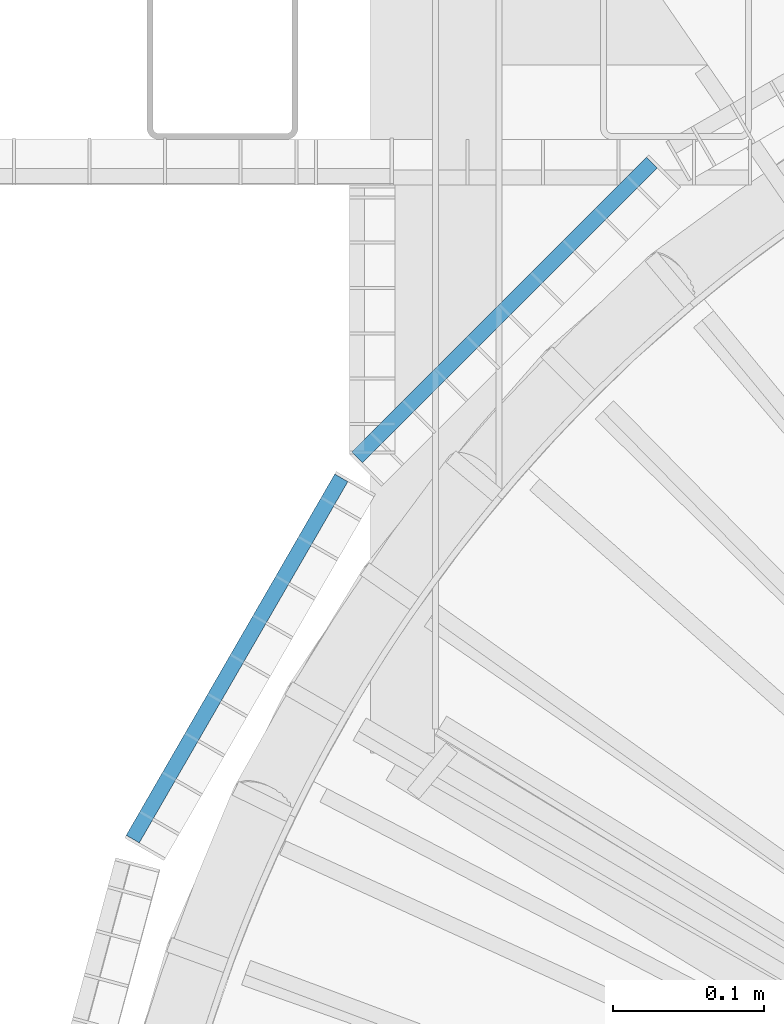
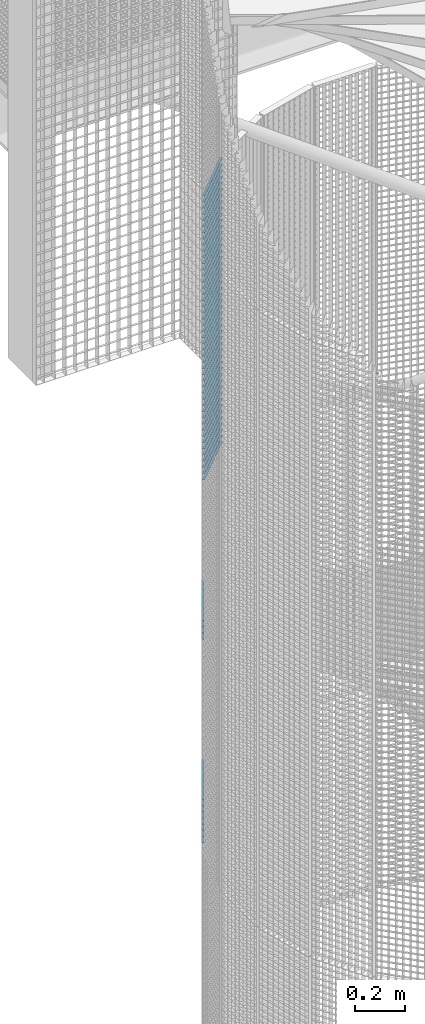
# One storey, part 209 of 1183: 59 beams, 2 elements without a shape of their own.
"""IFC2X3 building model written with IfcOpenShell, lengths in millimetres."""

from ifc_helpers import new_model, si_unit, frame, origin_with_axes, origin_2d_with_axis, place, context, subcontext, project, spatial, rectangle, extrude, material, type_object, element, aggregate, save


model = new_model("IFC2X3")

# Units and contexts
model_context = context("Model", 3, precision=1e-05, world=origin_with_axes())
body_context = subcontext(model_context, "Body", "Model", "MODEL_VIEW")
ifc_project = project(units=[si_unit("LENGTHUNIT", "METRE", prefix="MILLI"), si_unit("AREAUNIT", "SQUARE_METRE"), si_unit("VOLUMEUNIT", "CUBIC_METRE"), si_unit("MASSUNIT", "GRAM", prefix="KILO"), si_unit("TIMEUNIT", "SECOND"), si_unit("PLANEANGLEUNIT", "RADIAN"), si_unit("SOLIDANGLEUNIT", "STERADIAN"), si_unit("THERMODYNAMICTEMPERATUREUNIT", "DEGREE_CELSIUS"), si_unit("LUMINOUSINTENSITYUNIT", "LUMEN")], contexts=[model_context])

# Site, building, storey
site_placement = place(None, origin_with_axes())
site = spatial("IfcSite", under=ifc_project, at=site_placement, Name="Undefined", CompositionType="ELEMENT")
building_placement = place(site_placement, origin_with_axes())
building = spatial("IfcBuilding", under=site, at=building_placement, Name="Undefined", CompositionType="ELEMENT")
storey_placement = place(building_placement, origin_with_axes())
storey = spatial("IfcBuildingStorey", under=building, at=storey_placement, Name="Undefined", CompositionType="ELEMENT", Elevation=0.0)

# Assembly, beams
assembly_1_placement = place(storey_placement, origin_with_axes())
assembly_1 = element("IfcElementAssembly", 1, at=assembly_1_placement, inside=storey, Name="BORDURE", AssemblyPlace="NOTDEFINED", PredefinedType="NOTDEFINED")
ifc_material = material(Name="STEEL/S235JR")
beam_type = type_object("IfcBeamType", Name="PL2*10", PredefinedType="NOTDEFINED")
beam_1_placement = place(assembly_1_placement, frame((-895.303964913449, 676.24804453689, 3240.0), z_axis=(-0.866025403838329, 0.499999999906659, 0.0), x_axis=(-0.49999999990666, -0.866025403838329, 0.0)))
beam_1 = element("IfcBeam", 2, at=beam_1_placement, type_object=beam_type, material=ifc_material, Name="ENTRETOISE", context=body_context, shape_type="SweptSolid", body=[
    extrude(rectangle(XDim=2.0, YDim=10.0, at=origin_2d_with_axis()), frame((275.999999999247, 9.09494701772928e-13, 1.53210777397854e-14), z_axis=(-1.0, 0.0, 0.0), x_axis=(0.0, -1.0, 0.0)), (0.0, 0.0, 1.0), 276.0),
])
beam_2_placement = place(assembly_1_placement, frame((-895.303964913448, 676.248044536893, 4020.0), z_axis=(-0.866025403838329, 0.499999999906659, 0.0), x_axis=(-0.49999999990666, -0.866025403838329, 0.0)))
beam_2 = element("IfcBeam", 3, at=beam_2_placement, type_object=beam_type, material=ifc_material, Name="ENTRETOISE", context=body_context, shape_type="SweptSolid", body=[
    extrude(rectangle(XDim=2.0, YDim=10.0, at=origin_2d_with_axis()), frame((275.999999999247, 9.09494701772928e-13, 1.53210777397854e-14), z_axis=(-1.0, 0.0, 0.0), x_axis=(0.0, -1.0, 0.0)), (0.0, 0.0, 1.0), 276.0),
])
beam_3_placement = place(assembly_1_placement, frame((-895.303964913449, 676.24804453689, 3210.0), z_axis=(-0.866025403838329, 0.499999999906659, 0.0), x_axis=(-0.49999999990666, -0.866025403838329, 0.0)))
beam_3 = element("IfcBeam", 4, at=beam_3_placement, type_object=beam_type, material=ifc_material, Name="ENTRETOISE", context=body_context, shape_type="SweptSolid", body=[
    extrude(rectangle(XDim=2.0, YDim=10.0, at=origin_2d_with_axis()), frame((275.999999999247, 9.09494701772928e-13, 1.53210777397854e-14), z_axis=(-1.0, 0.0, 0.0), x_axis=(0.0, -1.0, 0.0)), (0.0, 0.0, 1.0), 276.0),
])
beam_4_placement = place(assembly_1_placement, frame((-895.30396491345, 676.24804453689, 3180.0), z_axis=(-0.866025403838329, 0.499999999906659, 0.0), x_axis=(-0.49999999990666, -0.866025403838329, 0.0)))
beam_4 = element("IfcBeam", 5, at=beam_4_placement, type_object=beam_type, material=ifc_material, Name="ENTRETOISE", context=body_context, shape_type="SweptSolid", body=[
    extrude(rectangle(XDim=2.0, YDim=10.0, at=origin_2d_with_axis()), frame((275.999999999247, 9.09494701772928e-13, 1.53210777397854e-14), z_axis=(-1.0, 0.0, 0.0), x_axis=(0.0, -1.0, 0.0)), (0.0, 0.0, 1.0), 276.0),
])
beam_5_placement = place(assembly_1_placement, frame((-895.303964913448, 676.248044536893, 4050.0), z_axis=(-0.866025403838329, 0.499999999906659, 0.0), x_axis=(-0.49999999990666, -0.866025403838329, 0.0)))
beam_5 = element("IfcBeam", 6, at=beam_5_placement, type_object=beam_type, material=ifc_material, Name="ENTRETOISE", context=body_context, shape_type="SweptSolid", body=[
    extrude(rectangle(XDim=2.0, YDim=10.0, at=origin_2d_with_axis()), frame((275.999999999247, 9.09494701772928e-13, 1.53210777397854e-14), z_axis=(-1.0, 0.0, 0.0), x_axis=(0.0, -1.0, 0.0)), (0.0, 0.0, 1.0), 276.0),
])
beam_6_placement = place(assembly_1_placement, frame((-895.30396491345, 676.24804453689, 3150.0), z_axis=(-0.866025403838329, 0.499999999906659, 0.0), x_axis=(-0.49999999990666, -0.866025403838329, 0.0)))
beam_6 = element("IfcBeam", 7, at=beam_6_placement, type_object=beam_type, material=ifc_material, Name="ENTRETOISE", context=body_context, shape_type="SweptSolid", body=[
    extrude(rectangle(XDim=2.0, YDim=10.0, at=origin_2d_with_axis()), frame((275.999999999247, 9.09494701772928e-13, 1.53210777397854e-14), z_axis=(-1.0, 0.0, 0.0), x_axis=(0.0, -1.0, 0.0)), (0.0, 0.0, 1.0), 276.0),
])
beam_7_placement = place(assembly_1_placement, frame((-895.30396491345, 676.24804453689, 3120.0), z_axis=(-0.866025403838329, 0.499999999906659, 0.0), x_axis=(-0.49999999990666, -0.866025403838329, 0.0)))
beam_7 = element("IfcBeam", 8, at=beam_7_placement, type_object=beam_type, material=ifc_material, Name="ENTRETOISE", context=body_context, shape_type="SweptSolid", body=[
    extrude(rectangle(XDim=2.0, YDim=10.0, at=origin_2d_with_axis()), frame((275.999999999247, 9.09494701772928e-13, 1.53210777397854e-14), z_axis=(-1.0, 0.0, 0.0), x_axis=(0.0, -1.0, 0.0)), (0.0, 0.0, 1.0), 276.0),
])
beam_8_placement = place(assembly_1_placement, frame((-895.303964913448, 676.248044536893, 4080.0), z_axis=(-0.866025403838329, 0.499999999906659, 0.0), x_axis=(-0.49999999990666, -0.866025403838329, 0.0)))
beam_8 = element("IfcBeam", 9, at=beam_8_placement, type_object=beam_type, material=ifc_material, Name="ENTRETOISE", context=body_context, shape_type="SweptSolid", body=[
    extrude(rectangle(XDim=2.0, YDim=10.0, at=origin_2d_with_axis()), frame((275.999999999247, 9.09494701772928e-13, 1.53210777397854e-14), z_axis=(-1.0, 0.0, 0.0), x_axis=(0.0, -1.0, 0.0)), (0.0, 0.0, 1.0), 276.0),
])
beam_9_placement = place(assembly_1_placement, frame((-895.30396491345, 676.24804453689, 3090.0), z_axis=(-0.866025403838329, 0.499999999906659, 0.0), x_axis=(-0.49999999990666, -0.866025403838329, 0.0)))
beam_9 = element("IfcBeam", 10, at=beam_9_placement, type_object=beam_type, material=ifc_material, Name="ENTRETOISE", context=body_context, shape_type="SweptSolid", body=[
    extrude(rectangle(XDim=2.0, YDim=10.0, at=origin_2d_with_axis()), frame((275.999999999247, 9.09494701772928e-13, 1.53210777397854e-14), z_axis=(-1.0, 0.0, 0.0), x_axis=(0.0, -1.0, 0.0)), (0.0, 0.0, 1.0), 276.0),
])
beam_10_placement = place(assembly_1_placement, frame((-895.30396491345, 676.24804453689, 3060.0), z_axis=(-0.866025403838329, 0.499999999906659, 0.0), x_axis=(-0.49999999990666, -0.866025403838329, 0.0)))
beam_10 = element("IfcBeam", 11, at=beam_10_placement, type_object=beam_type, material=ifc_material, Name="ENTRETOISE", context=body_context, shape_type="SweptSolid", body=[
    extrude(rectangle(XDim=2.0, YDim=10.0, at=origin_2d_with_axis()), frame((275.999999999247, 9.09494701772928e-13, 1.53210777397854e-14), z_axis=(-1.0, 0.0, 0.0), x_axis=(0.0, -1.0, 0.0)), (0.0, 0.0, 1.0), 276.0),
])
beam_11_placement = place(assembly_1_placement, frame((-895.303964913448, 676.248044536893, 4110.0), z_axis=(-0.866025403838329, 0.499999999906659, 0.0), x_axis=(-0.49999999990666, -0.866025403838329, 0.0)))
beam_11 = element("IfcBeam", 12, at=beam_11_placement, type_object=beam_type, material=ifc_material, Name="ENTRETOISE", context=body_context, shape_type="SweptSolid", body=[
    extrude(rectangle(XDim=2.0, YDim=10.0, at=origin_2d_with_axis()), frame((275.999999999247, 9.09494701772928e-13, 1.53210777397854e-14), z_axis=(-1.0, 0.0, 0.0), x_axis=(0.0, -1.0, 0.0)), (0.0, 0.0, 1.0), 276.0),
])
beam_12_placement = place(assembly_1_placement, frame((-895.30396491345, 676.248044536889, 3030.0), z_axis=(-0.866025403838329, 0.499999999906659, 0.0), x_axis=(-0.49999999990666, -0.866025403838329, 0.0)))
beam_12 = element("IfcBeam", 13, at=beam_12_placement, type_object=beam_type, material=ifc_material, Name="ENTRETOISE", context=body_context, shape_type="SweptSolid", body=[
    extrude(rectangle(XDim=2.0, YDim=10.0, at=origin_2d_with_axis()), frame((275.999999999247, 9.09494701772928e-13, 1.53210777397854e-14), z_axis=(-1.0, 0.0, 0.0), x_axis=(0.0, -1.0, 0.0)), (0.0, 0.0, 1.0), 276.0),
])
aggregate(assembly_1, [beam_1, beam_2, beam_3, beam_4, beam_5, beam_6, beam_7, beam_8, beam_9, beam_10, beam_11, beam_12])

assembly_2_placement = place(storey_placement, origin_with_axes())
assembly_2 = element("IfcElementAssembly", 14, at=assembly_2_placement, inside=storey, Name="BORDURE", AssemblyPlace="NOTDEFINED", PredefinedType="NOTDEFINED")
beam_13_placement = place(assembly_2_placement, frame((-689.771348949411, 884.927168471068, 5970.0), z_axis=(-0.707106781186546, 0.707106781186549, 0.0), x_axis=(-0.70710678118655, -0.707106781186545, 0.0)))
beam_13 = element("IfcBeam", 15, at=beam_13_placement, type_object=beam_type, material=ifc_material, Name="ENTRETOISE", context=body_context, shape_type="SweptSolid", body=[
    extrude(rectangle(XDim=2.0, YDim=10.0, at=origin_2d_with_axis()), frame((275.999999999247, 9.09494701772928e-13, 1.53210777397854e-14), z_axis=(-1.0, 0.0, 0.0), x_axis=(0.0, -1.0, 0.0)), (0.0, 0.0, 1.0), 276.0),
])
beam_14_placement = place(assembly_2_placement, frame((-689.771348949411, 884.927168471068, 5940.0), z_axis=(-0.707106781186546, 0.707106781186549, 0.0), x_axis=(-0.70710678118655, -0.707106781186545, 0.0)))
beam_14 = element("IfcBeam", 16, at=beam_14_placement, type_object=beam_type, material=ifc_material, Name="ENTRETOISE", context=body_context, shape_type="SweptSolid", body=[
    extrude(rectangle(XDim=2.0, YDim=10.0, at=origin_2d_with_axis()), frame((275.999999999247, 9.09494701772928e-13, 1.53210777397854e-14), z_axis=(-1.0, 0.0, 0.0), x_axis=(0.0, -1.0, 0.0)), (0.0, 0.0, 1.0), 276.0),
])
beam_15_placement = place(assembly_2_placement, frame((-689.771348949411, 884.927168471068, 5910.0), z_axis=(-0.707106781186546, 0.707106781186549, 0.0), x_axis=(-0.70710678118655, -0.707106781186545, 0.0)))
beam_15 = element("IfcBeam", 17, at=beam_15_placement, type_object=beam_type, material=ifc_material, Name="ENTRETOISE", context=body_context, shape_type="SweptSolid", body=[
    extrude(rectangle(XDim=2.0, YDim=10.0, at=origin_2d_with_axis()), frame((275.999999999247, 9.09494701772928e-13, 1.53210777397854e-14), z_axis=(-1.0, 0.0, 0.0), x_axis=(0.0, -1.0, 0.0)), (0.0, 0.0, 1.0), 276.0),
])
beam_16_placement = place(assembly_2_placement, frame((-689.771348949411, 884.927168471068, 5880.0), z_axis=(-0.707106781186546, 0.707106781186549, 0.0), x_axis=(-0.70710678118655, -0.707106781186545, 0.0)))
beam_16 = element("IfcBeam", 18, at=beam_16_placement, type_object=beam_type, material=ifc_material, Name="ENTRETOISE", context=body_context, shape_type="SweptSolid", body=[
    extrude(rectangle(XDim=2.0, YDim=10.0, at=origin_2d_with_axis()), frame((275.999999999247, 9.09494701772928e-13, 1.53210777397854e-14), z_axis=(-1.0, 0.0, 0.0), x_axis=(0.0, -1.0, 0.0)), (0.0, 0.0, 1.0), 276.0),
])
beam_17_placement = place(assembly_2_placement, frame((-689.771348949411, 884.927168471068, 5850.0), z_axis=(-0.707106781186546, 0.707106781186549, 0.0), x_axis=(-0.70710678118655, -0.707106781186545, 0.0)))
beam_17 = element("IfcBeam", 19, at=beam_17_placement, type_object=beam_type, material=ifc_material, Name="ENTRETOISE", context=body_context, shape_type="SweptSolid", body=[
    extrude(rectangle(XDim=2.0, YDim=10.0, at=origin_2d_with_axis()), frame((275.999999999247, 9.09494701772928e-13, 1.53210777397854e-14), z_axis=(-1.0, 0.0, 0.0), x_axis=(0.0, -1.0, 0.0)), (0.0, 0.0, 1.0), 276.0),
])
beam_18_placement = place(assembly_2_placement, frame((-689.771348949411, 884.927168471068, 5820.0), z_axis=(-0.707106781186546, 0.707106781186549, 0.0), x_axis=(-0.70710678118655, -0.707106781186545, 0.0)))
beam_18 = element("IfcBeam", 20, at=beam_18_placement, type_object=beam_type, material=ifc_material, Name="ENTRETOISE", context=body_context, shape_type="SweptSolid", body=[
    extrude(rectangle(XDim=2.0, YDim=10.0, at=origin_2d_with_axis()), frame((275.999999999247, 9.09494701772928e-13, 1.53210777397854e-14), z_axis=(-1.0, 0.0, 0.0), x_axis=(0.0, -1.0, 0.0)), (0.0, 0.0, 1.0), 276.0),
])
beam_19_placement = place(assembly_2_placement, frame((-689.771348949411, 884.927168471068, 5790.0), z_axis=(-0.707106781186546, 0.707106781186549, 0.0), x_axis=(-0.70710678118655, -0.707106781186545, 0.0)))
beam_19 = element("IfcBeam", 21, at=beam_19_placement, type_object=beam_type, material=ifc_material, Name="ENTRETOISE", context=body_context, shape_type="SweptSolid", body=[
    extrude(rectangle(XDim=2.0, YDim=10.0, at=origin_2d_with_axis()), frame((275.999999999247, 9.09494701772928e-13, 1.53210777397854e-14), z_axis=(-1.0, 0.0, 0.0), x_axis=(0.0, -1.0, 0.0)), (0.0, 0.0, 1.0), 276.0),
])
beam_20_placement = place(assembly_2_placement, frame((-689.771348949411, 884.927168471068, 5760.0), z_axis=(-0.707106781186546, 0.707106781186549, 0.0), x_axis=(-0.70710678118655, -0.707106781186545, 0.0)))
beam_20 = element("IfcBeam", 22, at=beam_20_placement, type_object=beam_type, material=ifc_material, Name="ENTRETOISE", context=body_context, shape_type="SweptSolid", body=[
    extrude(rectangle(XDim=2.0, YDim=10.0, at=origin_2d_with_axis()), frame((275.999999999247, 9.09494701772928e-13, 1.53210777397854e-14), z_axis=(-1.0, 0.0, 0.0), x_axis=(0.0, -1.0, 0.0)), (0.0, 0.0, 1.0), 276.0),
])
beam_21_placement = place(assembly_2_placement, frame((-689.771348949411, 884.927168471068, 5730.0), z_axis=(-0.707106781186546, 0.707106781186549, 0.0), x_axis=(-0.70710678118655, -0.707106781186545, 0.0)))
beam_21 = element("IfcBeam", 23, at=beam_21_placement, type_object=beam_type, material=ifc_material, Name="ENTRETOISE", context=body_context, shape_type="SweptSolid", body=[
    extrude(rectangle(XDim=2.0, YDim=10.0, at=origin_2d_with_axis()), frame((275.999999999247, 9.09494701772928e-13, 1.53210777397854e-14), z_axis=(-1.0, 0.0, 0.0), x_axis=(0.0, -1.0, 0.0)), (0.0, 0.0, 1.0), 276.0),
])
beam_22_placement = place(assembly_2_placement, frame((-689.771348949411, 884.927168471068, 5700.0), z_axis=(-0.707106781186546, 0.707106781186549, 0.0), x_axis=(-0.70710678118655, -0.707106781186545, 0.0)))
beam_22 = element("IfcBeam", 24, at=beam_22_placement, type_object=beam_type, material=ifc_material, Name="ENTRETOISE", context=body_context, shape_type="SweptSolid", body=[
    extrude(rectangle(XDim=2.0, YDim=10.0, at=origin_2d_with_axis()), frame((275.999999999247, 9.09494701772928e-13, 1.53210777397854e-14), z_axis=(-1.0, 0.0, 0.0), x_axis=(0.0, -1.0, 0.0)), (0.0, 0.0, 1.0), 276.0),
])
beam_23_placement = place(assembly_2_placement, frame((-689.771348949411, 884.927168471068, 5670.0), z_axis=(-0.707106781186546, 0.707106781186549, 0.0), x_axis=(-0.70710678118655, -0.707106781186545, 0.0)))
beam_23 = element("IfcBeam", 25, at=beam_23_placement, type_object=beam_type, material=ifc_material, Name="ENTRETOISE", context=body_context, shape_type="SweptSolid", body=[
    extrude(rectangle(XDim=2.0, YDim=10.0, at=origin_2d_with_axis()), frame((275.999999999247, 9.09494701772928e-13, 1.53210777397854e-14), z_axis=(-1.0, 0.0, 0.0), x_axis=(0.0, -1.0, 0.0)), (0.0, 0.0, 1.0), 276.0),
])
beam_24_placement = place(assembly_2_placement, frame((-689.771348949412, 884.927168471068, 5640.0), z_axis=(-0.707106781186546, 0.707106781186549, 0.0), x_axis=(-0.70710678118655, -0.707106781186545, 0.0)))
beam_24 = element("IfcBeam", 26, at=beam_24_placement, type_object=beam_type, material=ifc_material, Name="ENTRETOISE", context=body_context, shape_type="SweptSolid", body=[
    extrude(rectangle(XDim=2.0, YDim=10.0, at=origin_2d_with_axis()), frame((275.999999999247, 9.09494701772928e-13, 1.53210777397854e-14), z_axis=(-1.0, 0.0, 0.0), x_axis=(0.0, -1.0, 0.0)), (0.0, 0.0, 1.0), 276.0),
])
beam_25_placement = place(assembly_2_placement, frame((-689.771348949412, 884.927168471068, 5610.0), z_axis=(-0.707106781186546, 0.707106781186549, 0.0), x_axis=(-0.70710678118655, -0.707106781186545, 0.0)))
beam_25 = element("IfcBeam", 27, at=beam_25_placement, type_object=beam_type, material=ifc_material, Name="ENTRETOISE", context=body_context, shape_type="SweptSolid", body=[
    extrude(rectangle(XDim=2.0, YDim=10.0, at=origin_2d_with_axis()), frame((275.999999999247, 9.09494701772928e-13, 1.53210777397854e-14), z_axis=(-1.0, 0.0, 0.0), x_axis=(0.0, -1.0, 0.0)), (0.0, 0.0, 1.0), 276.0),
])
beam_26_placement = place(assembly_2_placement, frame((-689.771348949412, 884.927168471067, 5580.0), z_axis=(-0.707106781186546, 0.707106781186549, 0.0), x_axis=(-0.70710678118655, -0.707106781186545, 0.0)))
beam_26 = element("IfcBeam", 28, at=beam_26_placement, type_object=beam_type, material=ifc_material, Name="ENTRETOISE", context=body_context, shape_type="SweptSolid", body=[
    extrude(rectangle(XDim=2.0, YDim=10.0, at=origin_2d_with_axis()), frame((275.999999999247, 9.09494701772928e-13, 1.53210777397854e-14), z_axis=(-1.0, 0.0, 0.0), x_axis=(0.0, -1.0, 0.0)), (0.0, 0.0, 1.0), 276.0),
])
beam_27_placement = place(assembly_2_placement, frame((-689.771348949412, 884.927168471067, 5550.0), z_axis=(-0.707106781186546, 0.707106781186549, 0.0), x_axis=(-0.70710678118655, -0.707106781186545, 0.0)))
beam_27 = element("IfcBeam", 29, at=beam_27_placement, type_object=beam_type, material=ifc_material, Name="ENTRETOISE", context=body_context, shape_type="SweptSolid", body=[
    extrude(rectangle(XDim=2.0, YDim=10.0, at=origin_2d_with_axis()), frame((275.999999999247, 9.09494701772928e-13, 1.53210777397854e-14), z_axis=(-1.0, 0.0, 0.0), x_axis=(0.0, -1.0, 0.0)), (0.0, 0.0, 1.0), 276.0),
])
beam_28_placement = place(assembly_2_placement, frame((-689.771348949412, 884.927168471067, 5520.0), z_axis=(-0.707106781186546, 0.707106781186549, 0.0), x_axis=(-0.70710678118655, -0.707106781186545, 0.0)))
beam_28 = element("IfcBeam", 30, at=beam_28_placement, type_object=beam_type, material=ifc_material, Name="ENTRETOISE", context=body_context, shape_type="SweptSolid", body=[
    extrude(rectangle(XDim=2.0, YDim=10.0, at=origin_2d_with_axis()), frame((275.999999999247, 9.09494701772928e-13, 1.53210777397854e-14), z_axis=(-1.0, 0.0, 0.0), x_axis=(0.0, -1.0, 0.0)), (0.0, 0.0, 1.0), 276.0),
])
beam_29_placement = place(assembly_2_placement, frame((-689.771348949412, 884.927168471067, 5490.0), z_axis=(-0.707106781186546, 0.707106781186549, 0.0), x_axis=(-0.70710678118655, -0.707106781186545, 0.0)))
beam_29 = element("IfcBeam", 31, at=beam_29_placement, type_object=beam_type, material=ifc_material, Name="ENTRETOISE", context=body_context, shape_type="SweptSolid", body=[
    extrude(rectangle(XDim=2.0, YDim=10.0, at=origin_2d_with_axis()), frame((275.999999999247, 9.09494701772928e-13, 1.53210777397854e-14), z_axis=(-1.0, 0.0, 0.0), x_axis=(0.0, -1.0, 0.0)), (0.0, 0.0, 1.0), 276.0),
])
beam_30_placement = place(assembly_2_placement, frame((-689.771348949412, 884.927168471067, 5460.0), z_axis=(-0.707106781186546, 0.707106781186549, 0.0), x_axis=(-0.70710678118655, -0.707106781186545, 0.0)))
beam_30 = element("IfcBeam", 32, at=beam_30_placement, type_object=beam_type, material=ifc_material, Name="ENTRETOISE", context=body_context, shape_type="SweptSolid", body=[
    extrude(rectangle(XDim=2.0, YDim=10.0, at=origin_2d_with_axis()), frame((275.999999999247, 9.09494701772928e-13, 1.53210777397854e-14), z_axis=(-1.0, 0.0, 0.0), x_axis=(0.0, -1.0, 0.0)), (0.0, 0.0, 1.0), 276.0),
])
beam_31_placement = place(assembly_2_placement, frame((-689.771348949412, 884.927168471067, 5430.0), z_axis=(-0.707106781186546, 0.707106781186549, 0.0), x_axis=(-0.70710678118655, -0.707106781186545, 0.0)))
beam_31 = element("IfcBeam", 33, at=beam_31_placement, type_object=beam_type, material=ifc_material, Name="ENTRETOISE", context=body_context, shape_type="SweptSolid", body=[
    extrude(rectangle(XDim=2.0, YDim=10.0, at=origin_2d_with_axis()), frame((275.999999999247, 9.09494701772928e-13, 1.53210777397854e-14), z_axis=(-1.0, 0.0, 0.0), x_axis=(0.0, -1.0, 0.0)), (0.0, 0.0, 1.0), 276.0),
])
beam_32_placement = place(assembly_2_placement, frame((-689.771348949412, 884.927168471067, 5400.0), z_axis=(-0.707106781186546, 0.707106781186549, 0.0), x_axis=(-0.70710678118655, -0.707106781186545, 0.0)))
beam_32 = element("IfcBeam", 34, at=beam_32_placement, type_object=beam_type, material=ifc_material, Name="ENTRETOISE", context=body_context, shape_type="SweptSolid", body=[
    extrude(rectangle(XDim=2.0, YDim=10.0, at=origin_2d_with_axis()), frame((275.999999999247, 9.09494701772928e-13, 1.53210777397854e-14), z_axis=(-1.0, 0.0, 0.0), x_axis=(0.0, -1.0, 0.0)), (0.0, 0.0, 1.0), 276.0),
])
beam_33_placement = place(assembly_2_placement, frame((-689.771348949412, 884.927168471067, 5370.0), z_axis=(-0.707106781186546, 0.707106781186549, 0.0), x_axis=(-0.70710678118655, -0.707106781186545, 0.0)))
beam_33 = element("IfcBeam", 35, at=beam_33_placement, type_object=beam_type, material=ifc_material, Name="ENTRETOISE", context=body_context, shape_type="SweptSolid", body=[
    extrude(rectangle(XDim=2.0, YDim=10.0, at=origin_2d_with_axis()), frame((275.999999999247, 9.09494701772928e-13, 1.53210777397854e-14), z_axis=(-1.0, 0.0, 0.0), x_axis=(0.0, -1.0, 0.0)), (0.0, 0.0, 1.0), 276.0),
])
beam_34_placement = place(assembly_2_placement, frame((-689.771348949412, 884.927168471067, 5340.0), z_axis=(-0.707106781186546, 0.707106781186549, 0.0), x_axis=(-0.70710678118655, -0.707106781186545, 0.0)))
beam_34 = element("IfcBeam", 36, at=beam_34_placement, type_object=beam_type, material=ifc_material, Name="ENTRETOISE", context=body_context, shape_type="SweptSolid", body=[
    extrude(rectangle(XDim=2.0, YDim=10.0, at=origin_2d_with_axis()), frame((275.999999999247, 9.09494701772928e-13, 1.53210777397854e-14), z_axis=(-1.0, 0.0, 0.0), x_axis=(0.0, -1.0, 0.0)), (0.0, 0.0, 1.0), 276.0),
])
beam_35_placement = place(assembly_2_placement, frame((-689.771348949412, 884.927168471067, 5310.0), z_axis=(-0.707106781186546, 0.707106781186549, 0.0), x_axis=(-0.70710678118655, -0.707106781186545, 0.0)))
beam_35 = element("IfcBeam", 37, at=beam_35_placement, type_object=beam_type, material=ifc_material, Name="ENTRETOISE", context=body_context, shape_type="SweptSolid", body=[
    extrude(rectangle(XDim=2.0, YDim=10.0, at=origin_2d_with_axis()), frame((275.999999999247, 9.09494701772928e-13, 1.53210777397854e-14), z_axis=(-1.0, 0.0, 0.0), x_axis=(0.0, -1.0, 0.0)), (0.0, 0.0, 1.0), 276.0),
])
beam_36_placement = place(assembly_2_placement, frame((-689.771348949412, 884.927168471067, 5280.0), z_axis=(-0.707106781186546, 0.707106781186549, 0.0), x_axis=(-0.70710678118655, -0.707106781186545, 0.0)))
beam_36 = element("IfcBeam", 38, at=beam_36_placement, type_object=beam_type, material=ifc_material, Name="ENTRETOISE", context=body_context, shape_type="SweptSolid", body=[
    extrude(rectangle(XDim=2.0, YDim=10.0, at=origin_2d_with_axis()), frame((275.999999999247, 9.09494701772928e-13, 1.53210777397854e-14), z_axis=(-1.0, 0.0, 0.0), x_axis=(0.0, -1.0, 0.0)), (0.0, 0.0, 1.0), 276.0),
])
beam_37_placement = place(assembly_2_placement, frame((-689.771348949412, 884.927168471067, 5250.0), z_axis=(-0.707106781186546, 0.707106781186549, 0.0), x_axis=(-0.70710678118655, -0.707106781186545, 0.0)))
beam_37 = element("IfcBeam", 39, at=beam_37_placement, type_object=beam_type, material=ifc_material, Name="ENTRETOISE", context=body_context, shape_type="SweptSolid", body=[
    extrude(rectangle(XDim=2.0, YDim=10.0, at=origin_2d_with_axis()), frame((275.999999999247, 9.09494701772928e-13, 1.53210777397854e-14), z_axis=(-1.0, 0.0, 0.0), x_axis=(0.0, -1.0, 0.0)), (0.0, 0.0, 1.0), 276.0),
])
beam_38_placement = place(assembly_2_placement, frame((-689.771348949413, 884.927168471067, 5220.0), z_axis=(-0.707106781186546, 0.707106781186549, 0.0), x_axis=(-0.70710678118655, -0.707106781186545, 0.0)))
beam_38 = element("IfcBeam", 40, at=beam_38_placement, type_object=beam_type, material=ifc_material, Name="ENTRETOISE", context=body_context, shape_type="SweptSolid", body=[
    extrude(rectangle(XDim=2.0, YDim=10.0, at=origin_2d_with_axis()), frame((275.999999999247, 9.09494701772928e-13, 1.53210777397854e-14), z_axis=(-1.0, 0.0, 0.0), x_axis=(0.0, -1.0, 0.0)), (0.0, 0.0, 1.0), 276.0),
])
beam_39_placement = place(assembly_2_placement, frame((-689.771348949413, 884.927168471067, 5190.0), z_axis=(-0.707106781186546, 0.707106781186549, 0.0), x_axis=(-0.70710678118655, -0.707106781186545, 0.0)))
beam_39 = element("IfcBeam", 41, at=beam_39_placement, type_object=beam_type, material=ifc_material, Name="ENTRETOISE", context=body_context, shape_type="SweptSolid", body=[
    extrude(rectangle(XDim=2.0, YDim=10.0, at=origin_2d_with_axis()), frame((275.999999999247, 9.09494701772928e-13, 1.53210777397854e-14), z_axis=(-1.0, 0.0, 0.0), x_axis=(0.0, -1.0, 0.0)), (0.0, 0.0, 1.0), 276.0),
])
beam_40_placement = place(assembly_2_placement, frame((-689.771348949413, 884.927168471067, 5160.0), z_axis=(-0.707106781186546, 0.707106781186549, 0.0), x_axis=(-0.70710678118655, -0.707106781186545, 0.0)))
beam_40 = element("IfcBeam", 42, at=beam_40_placement, type_object=beam_type, material=ifc_material, Name="ENTRETOISE", context=body_context, shape_type="SweptSolid", body=[
    extrude(rectangle(XDim=2.0, YDim=10.0, at=origin_2d_with_axis()), frame((275.999999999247, 9.09494701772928e-13, 1.53210777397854e-14), z_axis=(-1.0, 0.0, 0.0), x_axis=(0.0, -1.0, 0.0)), (0.0, 0.0, 1.0), 276.0),
])
beam_41_placement = place(assembly_2_placement, frame((-689.771348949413, 884.927168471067, 5130.0), z_axis=(-0.707106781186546, 0.707106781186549, 0.0), x_axis=(-0.70710678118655, -0.707106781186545, 0.0)))
beam_41 = element("IfcBeam", 43, at=beam_41_placement, type_object=beam_type, material=ifc_material, Name="ENTRETOISE", context=body_context, shape_type="SweptSolid", body=[
    extrude(rectangle(XDim=2.0, YDim=10.0, at=origin_2d_with_axis()), frame((275.999999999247, 9.09494701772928e-13, 1.53210777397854e-14), z_axis=(-1.0, 0.0, 0.0), x_axis=(0.0, -1.0, 0.0)), (0.0, 0.0, 1.0), 276.0),
])
beam_42_placement = place(assembly_2_placement, frame((-689.771348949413, 884.927168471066, 5100.0), z_axis=(-0.707106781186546, 0.707106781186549, 0.0), x_axis=(-0.70710678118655, -0.707106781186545, 0.0)))
beam_42 = element("IfcBeam", 44, at=beam_42_placement, type_object=beam_type, material=ifc_material, Name="ENTRETOISE", context=body_context, shape_type="SweptSolid", body=[
    extrude(rectangle(XDim=2.0, YDim=10.0, at=origin_2d_with_axis()), frame((275.999999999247, 9.09494701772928e-13, 1.53210777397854e-14), z_axis=(-1.0, 0.0, 0.0), x_axis=(0.0, -1.0, 0.0)), (0.0, 0.0, 1.0), 276.0),
])
beam_43_placement = place(assembly_2_placement, frame((-689.771348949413, 884.927168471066, 5070.0), z_axis=(-0.707106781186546, 0.707106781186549, 0.0), x_axis=(-0.70710678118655, -0.707106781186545, 0.0)))
beam_43 = element("IfcBeam", 45, at=beam_43_placement, type_object=beam_type, material=ifc_material, Name="ENTRETOISE", context=body_context, shape_type="SweptSolid", body=[
    extrude(rectangle(XDim=2.0, YDim=10.0, at=origin_2d_with_axis()), frame((275.999999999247, 9.09494701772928e-13, 1.53210777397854e-14), z_axis=(-1.0, 0.0, 0.0), x_axis=(0.0, -1.0, 0.0)), (0.0, 0.0, 1.0), 276.0),
])
beam_44_placement = place(assembly_2_placement, frame((-689.771348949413, 884.927168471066, 5040.0), z_axis=(-0.707106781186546, 0.707106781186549, 0.0), x_axis=(-0.70710678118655, -0.707106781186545, 0.0)))
beam_44 = element("IfcBeam", 46, at=beam_44_placement, type_object=beam_type, material=ifc_material, Name="ENTRETOISE", context=body_context, shape_type="SweptSolid", body=[
    extrude(rectangle(XDim=2.0, YDim=10.0, at=origin_2d_with_axis()), frame((275.999999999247, 9.09494701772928e-13, 1.53210777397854e-14), z_axis=(-1.0, 0.0, 0.0), x_axis=(0.0, -1.0, 0.0)), (0.0, 0.0, 1.0), 276.0),
])
beam_45_placement = place(assembly_2_placement, frame((-689.771348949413, 884.927168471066, 5010.0), z_axis=(-0.707106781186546, 0.707106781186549, 0.0), x_axis=(-0.70710678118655, -0.707106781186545, 0.0)))
beam_45 = element("IfcBeam", 47, at=beam_45_placement, type_object=beam_type, material=ifc_material, Name="ENTRETOISE", context=body_context, shape_type="SweptSolid", body=[
    extrude(rectangle(XDim=2.0, YDim=10.0, at=origin_2d_with_axis()), frame((275.999999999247, 9.09494701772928e-13, 1.53210777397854e-14), z_axis=(-1.0, 0.0, 0.0), x_axis=(0.0, -1.0, 0.0)), (0.0, 0.0, 1.0), 276.0),
])
beam_46_placement = place(assembly_2_placement, frame((-689.771348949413, 884.927168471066, 4980.0), z_axis=(-0.707106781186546, 0.707106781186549, 0.0), x_axis=(-0.70710678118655, -0.707106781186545, 0.0)))
beam_46 = element("IfcBeam", 48, at=beam_46_placement, type_object=beam_type, material=ifc_material, Name="ENTRETOISE", context=body_context, shape_type="SweptSolid", body=[
    extrude(rectangle(XDim=2.0, YDim=10.0, at=origin_2d_with_axis()), frame((275.999999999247, 9.09494701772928e-13, 1.53210777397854e-14), z_axis=(-1.0, 0.0, 0.0), x_axis=(0.0, -1.0, 0.0)), (0.0, 0.0, 1.0), 276.0),
])
beam_47_placement = place(assembly_2_placement, frame((-689.771348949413, 884.927168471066, 4950.0), z_axis=(-0.707106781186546, 0.707106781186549, 0.0), x_axis=(-0.70710678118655, -0.707106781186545, 0.0)))
beam_47 = element("IfcBeam", 49, at=beam_47_placement, type_object=beam_type, material=ifc_material, Name="ENTRETOISE", context=body_context, shape_type="SweptSolid", body=[
    extrude(rectangle(XDim=2.0, YDim=10.0, at=origin_2d_with_axis()), frame((275.999999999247, 9.09494701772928e-13, 1.53210777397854e-14), z_axis=(-1.0, 0.0, 0.0), x_axis=(0.0, -1.0, 0.0)), (0.0, 0.0, 1.0), 276.0),
])
beam_48_placement = place(assembly_2_placement, frame((-689.771348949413, 884.927168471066, 4920.0), z_axis=(-0.707106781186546, 0.707106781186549, 0.0), x_axis=(-0.70710678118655, -0.707106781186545, 0.0)))
beam_48 = element("IfcBeam", 50, at=beam_48_placement, type_object=beam_type, material=ifc_material, Name="ENTRETOISE", context=body_context, shape_type="SweptSolid", body=[
    extrude(rectangle(XDim=2.0, YDim=10.0, at=origin_2d_with_axis()), frame((275.999999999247, 9.09494701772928e-13, 1.53210777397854e-14), z_axis=(-1.0, 0.0, 0.0), x_axis=(0.0, -1.0, 0.0)), (0.0, 0.0, 1.0), 276.0),
])
beam_49_placement = place(assembly_2_placement, frame((-689.771348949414, 884.927168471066, 4890.0), z_axis=(-0.707106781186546, 0.707106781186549, 0.0), x_axis=(-0.70710678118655, -0.707106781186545, 0.0)))
beam_49 = element("IfcBeam", 51, at=beam_49_placement, type_object=beam_type, material=ifc_material, Name="ENTRETOISE", context=body_context, shape_type="SweptSolid", body=[
    extrude(rectangle(XDim=2.0, YDim=10.0, at=origin_2d_with_axis()), frame((275.999999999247, 9.09494701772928e-13, 1.53210777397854e-14), z_axis=(-1.0, 0.0, 0.0), x_axis=(0.0, -1.0, 0.0)), (0.0, 0.0, 1.0), 276.0),
])
beam_50_placement = place(assembly_2_placement, frame((-689.771348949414, 884.927168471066, 4860.0), z_axis=(-0.707106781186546, 0.707106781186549, 0.0), x_axis=(-0.70710678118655, -0.707106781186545, 0.0)))
beam_50 = element("IfcBeam", 52, at=beam_50_placement, type_object=beam_type, material=ifc_material, Name="ENTRETOISE", context=body_context, shape_type="SweptSolid", body=[
    extrude(rectangle(XDim=2.0, YDim=10.0, at=origin_2d_with_axis()), frame((275.999999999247, 9.09494701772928e-13, 1.53210777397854e-14), z_axis=(-1.0, 0.0, 0.0), x_axis=(0.0, -1.0, 0.0)), (0.0, 0.0, 1.0), 276.0),
])
beam_51_placement = place(assembly_2_placement, frame((-689.771348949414, 884.927168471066, 4830.0), z_axis=(-0.707106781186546, 0.707106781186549, 0.0), x_axis=(-0.70710678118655, -0.707106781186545, 0.0)))
beam_51 = element("IfcBeam", 53, at=beam_51_placement, type_object=beam_type, material=ifc_material, Name="ENTRETOISE", context=body_context, shape_type="SweptSolid", body=[
    extrude(rectangle(XDim=2.0, YDim=10.0, at=origin_2d_with_axis()), frame((275.999999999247, 9.09494701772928e-13, 1.53210777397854e-14), z_axis=(-1.0, 0.0, 0.0), x_axis=(0.0, -1.0, 0.0)), (0.0, 0.0, 1.0), 276.0),
])
beam_52_placement = place(assembly_2_placement, frame((-689.771348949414, 884.927168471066, 4800.0), z_axis=(-0.707106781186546, 0.707106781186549, 0.0), x_axis=(-0.70710678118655, -0.707106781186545, 0.0)))
beam_52 = element("IfcBeam", 54, at=beam_52_placement, type_object=beam_type, material=ifc_material, Name="ENTRETOISE", context=body_context, shape_type="SweptSolid", body=[
    extrude(rectangle(XDim=2.0, YDim=10.0, at=origin_2d_with_axis()), frame((275.999999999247, 9.09494701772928e-13, 1.53210777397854e-14), z_axis=(-1.0, 0.0, 0.0), x_axis=(0.0, -1.0, 0.0)), (0.0, 0.0, 1.0), 276.0),
])
beam_53_placement = place(assembly_2_placement, frame((-689.771348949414, 884.927168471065, 4770.0), z_axis=(-0.707106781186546, 0.707106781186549, 0.0), x_axis=(-0.70710678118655, -0.707106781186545, 0.0)))
beam_53 = element("IfcBeam", 55, at=beam_53_placement, type_object=beam_type, material=ifc_material, Name="ENTRETOISE", context=body_context, shape_type="SweptSolid", body=[
    extrude(rectangle(XDim=2.0, YDim=10.0, at=origin_2d_with_axis()), frame((275.999999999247, 9.09494701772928e-13, 1.53210777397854e-14), z_axis=(-1.0, 0.0, 0.0), x_axis=(0.0, -1.0, 0.0)), (0.0, 0.0, 1.0), 276.0),
])
beam_54_placement = place(assembly_2_placement, frame((-689.771348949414, 884.927168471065, 4740.0), z_axis=(-0.707106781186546, 0.707106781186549, 0.0), x_axis=(-0.70710678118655, -0.707106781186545, 0.0)))
beam_54 = element("IfcBeam", 56, at=beam_54_placement, type_object=beam_type, material=ifc_material, Name="ENTRETOISE", context=body_context, shape_type="SweptSolid", body=[
    extrude(rectangle(XDim=2.0, YDim=10.0, at=origin_2d_with_axis()), frame((275.999999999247, 9.09494701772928e-13, 1.53210777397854e-14), z_axis=(-1.0, 0.0, 0.0), x_axis=(0.0, -1.0, 0.0)), (0.0, 0.0, 1.0), 276.0),
])
beam_55_placement = place(assembly_2_placement, frame((-689.771348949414, 884.927168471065, 4710.0), z_axis=(-0.707106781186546, 0.707106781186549, 0.0), x_axis=(-0.70710678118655, -0.707106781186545, 0.0)))
beam_55 = element("IfcBeam", 57, at=beam_55_placement, type_object=beam_type, material=ifc_material, Name="ENTRETOISE", context=body_context, shape_type="SweptSolid", body=[
    extrude(rectangle(XDim=2.0, YDim=10.0, at=origin_2d_with_axis()), frame((275.999999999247, 9.09494701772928e-13, 1.53210777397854e-14), z_axis=(-1.0, 0.0, 0.0), x_axis=(0.0, -1.0, 0.0)), (0.0, 0.0, 1.0), 276.0),
])
beam_56_placement = place(assembly_2_placement, frame((-689.771348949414, 884.927168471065, 4680.0), z_axis=(-0.707106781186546, 0.707106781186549, 0.0), x_axis=(-0.70710678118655, -0.707106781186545, 0.0)))
beam_56 = element("IfcBeam", 58, at=beam_56_placement, type_object=beam_type, material=ifc_material, Name="ENTRETOISE", context=body_context, shape_type="SweptSolid", body=[
    extrude(rectangle(XDim=2.0, YDim=10.0, at=origin_2d_with_axis()), frame((275.999999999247, 9.09494701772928e-13, 1.53210777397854e-14), z_axis=(-1.0, 0.0, 0.0), x_axis=(0.0, -1.0, 0.0)), (0.0, 0.0, 1.0), 276.0),
])
beam_57_placement = place(assembly_2_placement, frame((-689.771348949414, 884.927168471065, 4650.0), z_axis=(-0.707106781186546, 0.707106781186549, 0.0), x_axis=(-0.70710678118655, -0.707106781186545, 0.0)))
beam_57 = element("IfcBeam", 59, at=beam_57_placement, type_object=beam_type, material=ifc_material, Name="ENTRETOISE", context=body_context, shape_type="SweptSolid", body=[
    extrude(rectangle(XDim=2.0, YDim=10.0, at=origin_2d_with_axis()), frame((275.999999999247, 9.09494701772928e-13, 1.53210777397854e-14), z_axis=(-1.0, 0.0, 0.0), x_axis=(0.0, -1.0, 0.0)), (0.0, 0.0, 1.0), 276.0),
])
beam_58_placement = place(assembly_2_placement, frame((-689.771348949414, 884.927168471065, 4620.0), z_axis=(-0.707106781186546, 0.707106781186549, 0.0), x_axis=(-0.70710678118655, -0.707106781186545, 0.0)))
beam_58 = element("IfcBeam", 60, at=beam_58_placement, type_object=beam_type, material=ifc_material, Name="ENTRETOISE", context=body_context, shape_type="SweptSolid", body=[
    extrude(rectangle(XDim=2.0, YDim=10.0, at=origin_2d_with_axis()), frame((275.999999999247, 9.09494701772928e-13, 1.53210777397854e-14), z_axis=(-1.0, 0.0, 0.0), x_axis=(0.0, -1.0, 0.0)), (0.0, 0.0, 1.0), 276.0),
])
beam_59_placement = place(assembly_2_placement, frame((-689.771348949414, 884.927168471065, 4590.0), z_axis=(-0.707106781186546, 0.707106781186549, 0.0), x_axis=(-0.70710678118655, -0.707106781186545, 0.0)))
beam_59 = element("IfcBeam", 61, at=beam_59_placement, type_object=beam_type, material=ifc_material, Name="ENTRETOISE", context=body_context, shape_type="SweptSolid", body=[
    extrude(rectangle(XDim=2.0, YDim=10.0, at=origin_2d_with_axis()), frame((275.999999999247, 9.09494701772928e-13, 1.53210777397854e-14), z_axis=(-1.0, 0.0, 0.0), x_axis=(0.0, -1.0, 0.0)), (0.0, 0.0, 1.0), 276.0),
])
aggregate(assembly_2, [beam_13, beam_14, beam_15, beam_16, beam_17, beam_18, beam_19, beam_20, beam_21, beam_22, beam_23, beam_24, beam_25, beam_26, beam_27, beam_28, beam_29, beam_30, beam_31, beam_32, beam_33, beam_34, beam_35, beam_36, beam_37, beam_38, beam_39, beam_40, beam_41, beam_42, beam_43, beam_44, beam_45, beam_46, beam_47, beam_48, beam_49, beam_50, beam_51, beam_52, beam_53, beam_54, beam_55, beam_56, beam_57, beam_58, beam_59])

save(model, "model.ifc")
